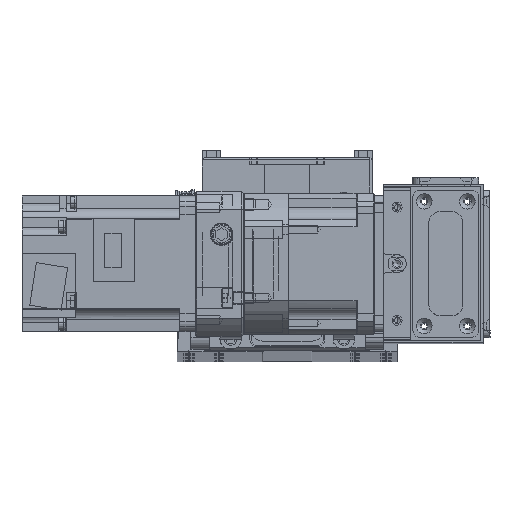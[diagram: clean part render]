
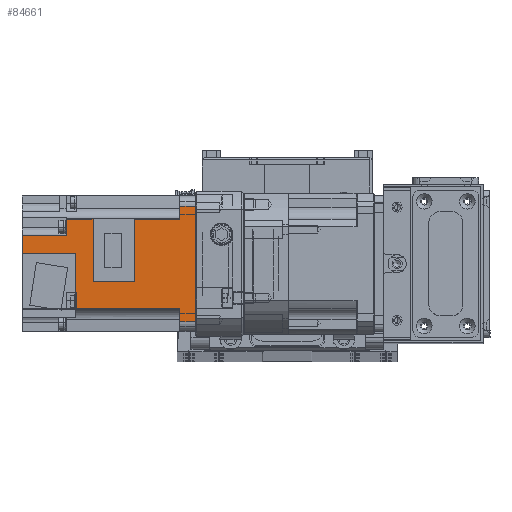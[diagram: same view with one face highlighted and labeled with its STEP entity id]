
A CAD part, top view. The second image highlights one B-rep face of the part: STEP entity #84661.
In plain terms, the highlighted planar face has unit normal (0, 0, 1) as drawn and (0, -1, 0) by its records, which use the part's own axes.
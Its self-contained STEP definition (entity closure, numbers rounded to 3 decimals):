
#7114=FACE_OUTER_BOUND('',#11926,.T.);
#11926=EDGE_LOOP('',(#68922,#68923,#68924,#68925,#68926,#68927,#68928,#68929,
#68930,#68931,#68932,#68933,#68934,#68935,#68936,#68937,#68938,#68939,#68940,
#68941));
#21102=LINE('',#136053,#30129);
#21132=LINE('',#136159,#30159);
#21135=LINE('',#136171,#30162);
#21177=LINE('',#136301,#30204);
#21238=LINE('',#136513,#30265);
#21239=LINE('',#136518,#30266);
#21240=LINE('',#136520,#30267);
#21241=LINE('',#136521,#30268);
#21242=LINE('',#136523,#30269);
#21243=LINE('',#136525,#30270);
#21244=LINE('',#136527,#30271);
#21245=LINE('',#136529,#30272);
#21246=LINE('',#136531,#30273);
#21247=LINE('',#136533,#30274);
#21248=LINE('',#136535,#30275);
#21249=LINE('',#136537,#30276);
#21250=LINE('',#136538,#30277);
#21251=LINE('',#136540,#30278);
#21252=LINE('',#136542,#30279);
#21253=LINE('',#136543,#30280);
#30129=VECTOR('',#108211,51.);
#30159=VECTOR('',#108299,3.41);
#30162=VECTOR('',#108308,2.444);
#30204=VECTOR('',#108428,7.8);
#30265=VECTOR('',#108665,5.941);
#30266=VECTOR('',#108672,7.);
#30267=VECTOR('',#108675,0.905);
#30268=VECTOR('',#108676,45.6);
#30269=VECTOR('',#108677,7.);
#30270=VECTOR('',#108678,5.941);
#30271=VECTOR('',#108679,19.9);
#30272=VECTOR('',#108680,27.559);
#30273=VECTOR('',#108681,18.35);
#30274=VECTOR('',#108682,27.559);
#30275=VECTOR('',#108683,11.85);
#30276=VECTOR('',#108684,7.059);
#30277=VECTOR('',#108685,19.5);
#30278=VECTOR('',#108686,23.5);
#30279=VECTOR('',#108687,17.5);
#30280=VECTOR('',#108688,0.5);
#39116=VERTEX_POINT('',#136050);
#39117=VERTEX_POINT('',#136052);
#39162=VERTEX_POINT('',#136155);
#39164=VERTEX_POINT('',#136158);
#39169=VERTEX_POINT('',#136168);
#39170=VERTEX_POINT('',#136170);
#39218=VERTEX_POINT('',#136298);
#39219=VERTEX_POINT('',#136300);
#39281=VERTEX_POINT('',#136510);
#39282=VERTEX_POINT('',#136512);
#39284=VERTEX_POINT('',#136522);
#39285=VERTEX_POINT('',#136524);
#39286=VERTEX_POINT('',#136526);
#39287=VERTEX_POINT('',#136528);
#39288=VERTEX_POINT('',#136530);
#39289=VERTEX_POINT('',#136532);
#39290=VERTEX_POINT('',#136534);
#39291=VERTEX_POINT('',#136536);
#39292=VERTEX_POINT('',#136539);
#39293=VERTEX_POINT('',#136541);
#49493=EDGE_CURVE('',#39116,#39117,#21102,.T.);
#49545=EDGE_CURVE('',#39162,#39164,#21132,.T.);
#49551=EDGE_CURVE('',#39169,#39170,#21135,.T.);
#49616=EDGE_CURVE('',#39218,#39219,#21177,.T.);
#49721=EDGE_CURVE('',#39282,#39281,#21238,.T.);
#49724=EDGE_CURVE('',#39281,#39117,#21239,.T.);
#49725=EDGE_CURVE('',#39170,#39162,#21240,.T.);
#49726=EDGE_CURVE('',#39282,#39169,#21241,.T.);
#49727=EDGE_CURVE('',#39284,#39116,#21242,.T.);
#49728=EDGE_CURVE('',#39284,#39285,#21243,.T.);
#49729=EDGE_CURVE('',#39285,#39286,#21244,.T.);
#49730=EDGE_CURVE('',#39286,#39287,#21245,.T.);
#49731=EDGE_CURVE('',#39287,#39288,#21246,.T.);
#49732=EDGE_CURVE('',#39288,#39289,#21247,.T.);
#49733=EDGE_CURVE('',#39290,#39289,#21248,.T.);
#49734=EDGE_CURVE('',#39291,#39290,#21249,.T.);
#49735=EDGE_CURVE('',#39219,#39291,#21250,.T.);
#49736=EDGE_CURVE('',#39218,#39292,#21251,.T.);
#49737=EDGE_CURVE('',#39293,#39292,#21252,.T.);
#49738=EDGE_CURVE('',#39164,#39293,#21253,.T.);
#68922=ORIENTED_EDGE('',*,*,#49725,.F.);
#68923=ORIENTED_EDGE('',*,*,#49551,.F.);
#68924=ORIENTED_EDGE('',*,*,#49726,.F.);
#68925=ORIENTED_EDGE('',*,*,#49721,.T.);
#68926=ORIENTED_EDGE('',*,*,#49724,.T.);
#68927=ORIENTED_EDGE('',*,*,#49493,.F.);
#68928=ORIENTED_EDGE('',*,*,#49727,.F.);
#68929=ORIENTED_EDGE('',*,*,#49728,.T.);
#68930=ORIENTED_EDGE('',*,*,#49729,.T.);
#68931=ORIENTED_EDGE('',*,*,#49730,.T.);
#68932=ORIENTED_EDGE('',*,*,#49731,.T.);
#68933=ORIENTED_EDGE('',*,*,#49732,.T.);
#68934=ORIENTED_EDGE('',*,*,#49733,.F.);
#68935=ORIENTED_EDGE('',*,*,#49734,.F.);
#68936=ORIENTED_EDGE('',*,*,#49735,.F.);
#68937=ORIENTED_EDGE('',*,*,#49616,.F.);
#68938=ORIENTED_EDGE('',*,*,#49736,.T.);
#68939=ORIENTED_EDGE('',*,*,#49737,.F.);
#68940=ORIENTED_EDGE('',*,*,#49738,.F.);
#68941=ORIENTED_EDGE('',*,*,#49545,.F.);
#80613=PLANE('',#91982);
#84661=ADVANCED_FACE('',(#7114),#80613,.F.);
#91982=AXIS2_PLACEMENT_3D('',#136519,#108673,#108674);
#108211=DIRECTION('',(1.,0.,0.));
#108299=DIRECTION('',(-1.,0.,0.));
#108308=DIRECTION('',(-1.,0.,0.));
#108428=DIRECTION('',(-1.,0.,0.));
#108665=DIRECTION('',(1.,0.,0.));
#108672=DIRECTION('',(0.,0.,1.));
#108673=DIRECTION('center_axis',(0.,1.,0.));
#108674=DIRECTION('ref_axis',(-1.,0.,0.));
#108675=DIRECTION('',(-1.,0.,0.));
#108676=DIRECTION('',(0.,0.,-1.));
#108677=DIRECTION('',(0.,0.,1.));
#108678=DIRECTION('',(1.,0.,0.));
#108679=DIRECTION('',(0.,0.,-1.));
#108680=DIRECTION('',(1.,0.,0.));
#108681=DIRECTION('',(0.,0.,-1.));
#108682=DIRECTION('',(-1.,0.,0.));
#108683=DIRECTION('',(0.,0.,1.));
#108684=DIRECTION('',(-1.,0.,0.));
#108685=DIRECTION('',(0.,0.,1.));
#108686=DIRECTION('',(0.,0.,1.));
#108687=DIRECTION('',(-1.,0.,0.));
#108688=DIRECTION('',(0.,0.,-1.));
#136050=CARTESIAN_POINT('',(-25.5,-30.,0.));
#136052=CARTESIAN_POINT('',(25.5,-30.,0.));
#136053=CARTESIAN_POINT('',(-25.5,-30.,0.));
#136155=CARTESIAN_POINT('',(16.21,-30.,-52.6));
#136158=CARTESIAN_POINT('',(12.8,-30.,-52.6));
#136159=CARTESIAN_POINT('',(16.21,-30.,-52.6));
#136168=CARTESIAN_POINT('',(19.559,-30.,-52.6));
#136170=CARTESIAN_POINT('',(17.115,-30.,-52.6));
#136171=CARTESIAN_POINT('',(19.559,-30.,-52.6));
#136298=CARTESIAN_POINT('',(-4.7,-30.,-76.6));
#136300=CARTESIAN_POINT('',(-12.5,-30.,-76.6));
#136301=CARTESIAN_POINT('',(-4.7,-30.,-76.6));
#136510=CARTESIAN_POINT('',(25.5,-30.,-7.));
#136512=CARTESIAN_POINT('',(19.559,-30.,-7.));
#136513=CARTESIAN_POINT('',(19.559,-30.,-7.));
#136518=CARTESIAN_POINT('',(25.5,-30.,-7.));
#136519=CARTESIAN_POINT('Origin',(0.,-30.,-3.9));
#136520=CARTESIAN_POINT('',(17.115,-30.,-52.6));
#136521=CARTESIAN_POINT('',(19.559,-30.,-7.));
#136522=CARTESIAN_POINT('',(-25.5,-30.,-7.));
#136523=CARTESIAN_POINT('',(-25.5,-30.,-7.));
#136524=CARTESIAN_POINT('',(-19.559,-30.,-7.));
#136525=CARTESIAN_POINT('',(-25.5,-30.,-7.));
#136526=CARTESIAN_POINT('',(-19.559,-30.,-26.9));
#136527=CARTESIAN_POINT('',(-19.559,-30.,-7.));
#136528=CARTESIAN_POINT('',(8.,-30.,-26.9));
#136529=CARTESIAN_POINT('',(-19.559,-30.,-26.9));
#136530=CARTESIAN_POINT('',(8.,-30.,-45.25));
#136531=CARTESIAN_POINT('',(8.,-30.,-26.9));
#136532=CARTESIAN_POINT('',(-19.559,-30.,-45.25));
#136533=CARTESIAN_POINT('',(8.,-30.,-45.25));
#136534=CARTESIAN_POINT('',(-19.559,-30.,-57.1));
#136535=CARTESIAN_POINT('',(-19.559,-30.,-57.1));
#136536=CARTESIAN_POINT('',(-12.5,-30.,-57.1));
#136537=CARTESIAN_POINT('',(-12.5,-30.,-57.1));
#136538=CARTESIAN_POINT('',(-12.5,-30.,-76.6));
#136539=CARTESIAN_POINT('',(-4.7,-30.,-53.1));
#136540=CARTESIAN_POINT('',(-4.7,-30.,-76.6));
#136541=CARTESIAN_POINT('',(12.8,-30.,-53.1));
#136542=CARTESIAN_POINT('',(12.8,-30.,-53.1));
#136543=CARTESIAN_POINT('',(12.8,-30.,-52.6));
